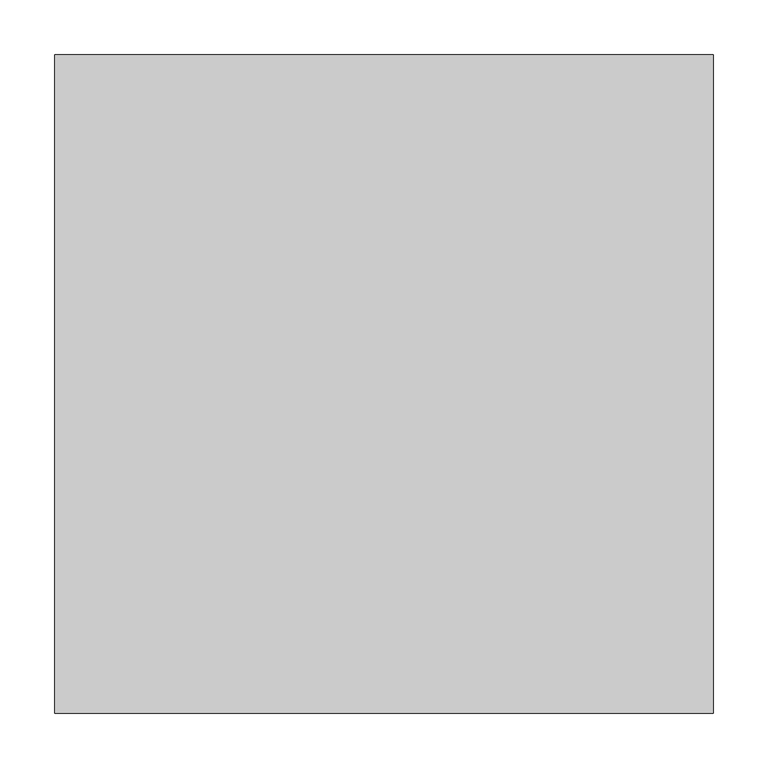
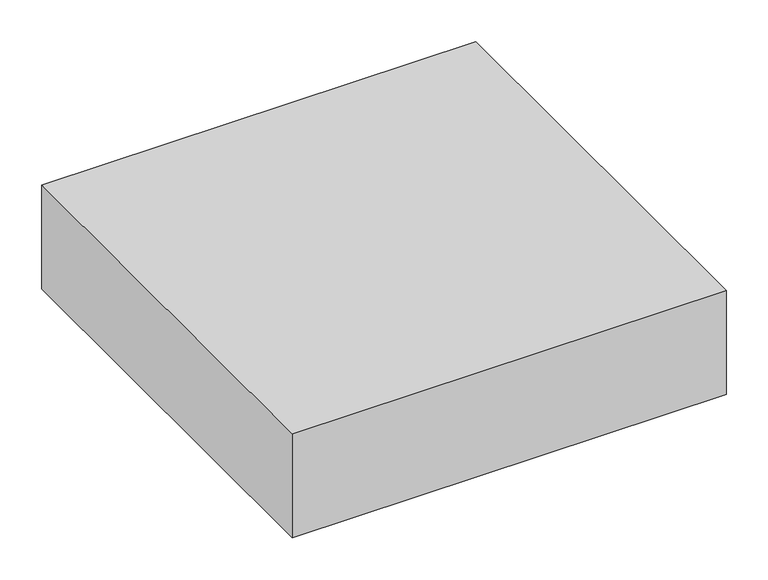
"""IFC4 building model written with IfcOpenShell, lengths in millimetres: cable carrier fitting geometry, M_電線管端子箱 - 置換 - アルミニウム : 標準."""

from ifc_helpers import new_model, si_unit, frame, origin, place, context, project, spatial, polyline, outline, extrude, source, transform, mapped, element, save


def cable_carrier_fitting_1a5c53af(model_context):
    return source(origin(), model_context, "Body", "SweptSolid", [
        extrude(outline(polyline([(600.0, 300.0), (600.0, -300.0), (0.0, -300.0), (0.0, 300.0), (600.0, 300.0)])), frame((0.0, 0.0, -76.0), z_axis=(0.0, 0.0, 1.0), x_axis=(1.0, 0.0, 0.0)), (0.0, 0.0, 1.0), 152.0),
    ])


if __name__ == "__main__":
    model = new_model("IFC4")
    model_context = context("Model", 3, world=origin())
    ifc_project = project(units=[si_unit("LENGTHUNIT", "METRE", prefix="MILLI")], contexts=[model_context])
    site = spatial("IfcSite", under=ifc_project)
    building = spatial("IfcBuilding", under=site)
    placement = place(None, origin())
    cable_carrier_fitting_shape = cable_carrier_fitting_1a5c53af(model_context)
    element("IfcCableCarrierFitting", 1, ObjectType="M_電線管端子箱 - 置換 - アルミニウム : 標準", at=placement, inside=building, context=model_context, shape_type="MappedRepresentation", body=[
        mapped(cable_carrier_fitting_shape, transform((0.0, 0.0, 0.0), x_axis=(1.0, 0.0, 0.0), y_axis=(0.0, 1.0, 0.0), z_axis=(0.0, 0.0, 1.0))),
    ])
    save(model, "model.ifc")
